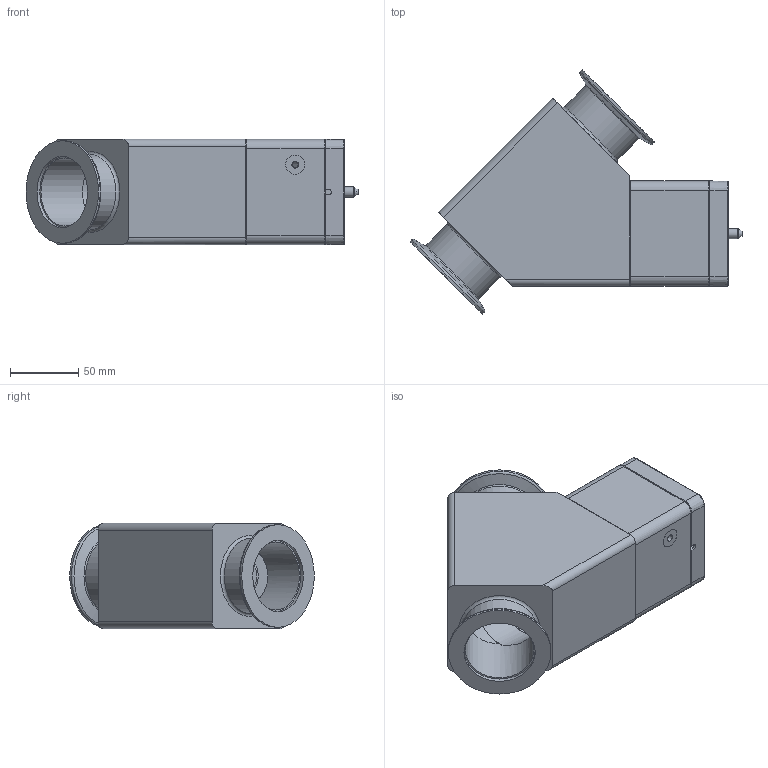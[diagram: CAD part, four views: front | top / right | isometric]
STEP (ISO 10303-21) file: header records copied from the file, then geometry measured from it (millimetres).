
FILE_DESCRIPTION(/* description */ (''),/* implementation_level */ '2;1');
FILE_NAME(/* name */ '1336964727_203.stp',/* time_stamp */ '2013-09-05T14:11:41+02:00',/* author */ (''),/* organization */ (''),/* preprocessor_version */ 'ST-DEVELOPER v11',/* originating_system */ 'SIEMENS PLM Software NX 7.5',/* authorisation */ '');
FILE_SCHEMA (('AP203_CONFIGURATION_CONTROLLED_3D_DESIGN_OF_MECHANICAL_PARTS_AND_ASSEMBLIES_MIM_LF'));
Length unit declared in the file: millimetre
Products named in the file (8): 245150; 236204_1.1; 256333.8; 256526.3; 258606.1; 224820.2; 248485.2; 708515
Assembly tree (11 placements, depth 3):
  708515
    248485.2
      236204_1.1  x2
      245150
    224820.2  x4
    258606.1
    256526.3
    256333.8
Bounding box: 242.85 x 178.9 x 77 mm (x, y, z)
Volume: 830699.3 mm3; surface area: 203918.7 mm2
Topology: 18 solids, 18 shells, 557 faces, 1345 edges, 866 vertices
Faces by surface type: plane 330, cone 97, cylinder 92, bspline 25, torus 13
Full cylindrical faces by diameter (mm): 2.5 x2, 2.95 x1, 3 x4, 4.2 x1, 4.6 x1, 4.7 x2, 4.96 x4, 5 x9, 5.6 x2, 6 x12, 6.6 x4, 7.4 x1, 8 x2, 8.175 x1, 9.1 x1, 10 x5, 11.975 x3, 12.015 x2, 13.85 x1, 14 x1, 16.555 x1, 36 x1, 49.9 x2, 50 x1, 52.2 x2, 55 x2, 63 x1, 63.05 x1, 70.45 x1, 72.9 x1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
Entity records: 15941 total; most frequent: CARTESIAN_POINT 3786, DIRECTION 2170, ORIENTED_EDGE 2104, EDGE_CURVE 1052, AXIS2_PLACEMENT_3D 781, VERTEX_POINT 755, EDGE_LOOP 675, LINE 608
